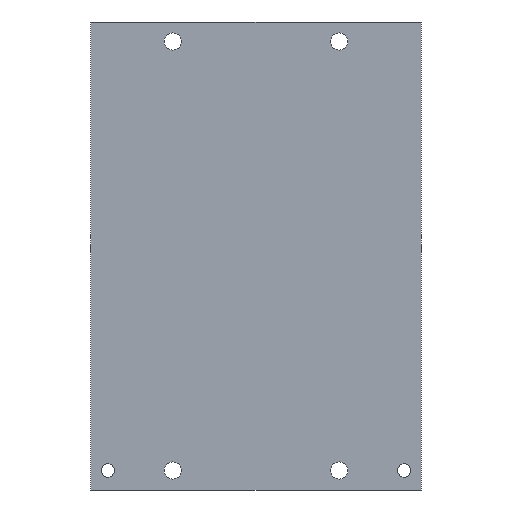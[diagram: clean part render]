
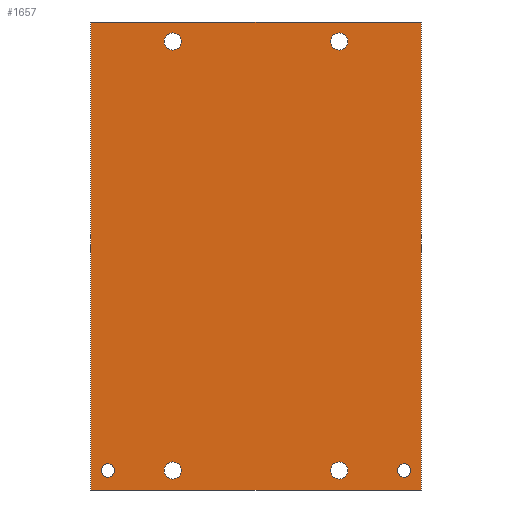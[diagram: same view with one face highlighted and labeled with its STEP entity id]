
A CAD part, front view. The second image highlights one B-rep face of the part: STEP entity #1657.
In plain terms, the highlighted planar face has unit normal (0, -1, 0).
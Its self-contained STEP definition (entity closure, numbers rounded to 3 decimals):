
#13=DIRECTION('',(0.,0.,1.));
#14=VECTOR('',#13,180.);
#15=CARTESIAN_POINT('',(63.65,0.,-90.));
#16=LINE('',#15,#14);
#17=DIRECTION('',(-1.,0.,0.));
#18=VECTOR('',#17,127.3);
#19=CARTESIAN_POINT('',(63.65,0.,90.));
#20=LINE('',#19,#18);
#21=DIRECTION('',(-1.,0.,0.));
#22=VECTOR('',#21,127.3);
#23=CARTESIAN_POINT('',(63.65,0.,-90.));
#24=LINE('',#23,#22);
#25=CARTESIAN_POINT('',(-32.,0.,-82.5));
#26=DIRECTION('',(0.,1.,0.));
#27=DIRECTION('',(1.,0.,0.));
#28=AXIS2_PLACEMENT_3D('',#25,#26,#27);
#30=CARTESIAN_POINT('',(-32.,0.,-82.5));
#31=DIRECTION('',(0.,1.,0.));
#32=DIRECTION('',(-1.,0.,0.));
#33=AXIS2_PLACEMENT_3D('',#30,#31,#32);
#35=CARTESIAN_POINT('',(32.,0.,-82.5));
#36=DIRECTION('',(0.,1.,0.));
#37=DIRECTION('',(1.,0.,0.));
#38=AXIS2_PLACEMENT_3D('',#35,#36,#37);
#40=CARTESIAN_POINT('',(32.,0.,-82.5));
#41=DIRECTION('',(0.,1.,0.));
#42=DIRECTION('',(-1.,0.,0.));
#43=AXIS2_PLACEMENT_3D('',#40,#41,#42);
#45=CARTESIAN_POINT('',(-32.,0.,82.5));
#46=DIRECTION('',(0.,1.,0.));
#47=DIRECTION('',(1.,0.,0.));
#48=AXIS2_PLACEMENT_3D('',#45,#46,#47);
#50=CARTESIAN_POINT('',(-32.,0.,82.5));
#51=DIRECTION('',(0.,1.,0.));
#52=DIRECTION('',(-1.,0.,0.));
#53=AXIS2_PLACEMENT_3D('',#50,#51,#52);
#55=CARTESIAN_POINT('',(32.,0.,82.5));
#56=DIRECTION('',(0.,1.,0.));
#57=DIRECTION('',(1.,0.,0.));
#58=AXIS2_PLACEMENT_3D('',#55,#56,#57);
#60=CARTESIAN_POINT('',(32.,0.,82.5));
#61=DIRECTION('',(0.,1.,0.));
#62=DIRECTION('',(-1.,0.,0.));
#63=AXIS2_PLACEMENT_3D('',#60,#61,#62);
#65=CARTESIAN_POINT('',(-57.,0.,-82.5));
#66=DIRECTION('',(0.,-1.,0.));
#67=DIRECTION('',(1.,0.,0.));
#68=AXIS2_PLACEMENT_3D('',#65,#66,#67);
#70=CARTESIAN_POINT('',(-57.,0.,-82.5));
#71=DIRECTION('',(0.,-1.,0.));
#72=DIRECTION('',(-1.,0.,0.));
#73=AXIS2_PLACEMENT_3D('',#70,#71,#72);
#75=CARTESIAN_POINT('',(57.,0.,-82.5));
#76=DIRECTION('',(0.,-1.,0.));
#77=DIRECTION('',(1.,0.,0.));
#78=AXIS2_PLACEMENT_3D('',#75,#76,#77);
#80=CARTESIAN_POINT('',(57.,0.,-82.5));
#81=DIRECTION('',(0.,-1.,0.));
#82=DIRECTION('',(-1.,0.,0.));
#83=AXIS2_PLACEMENT_3D('',#80,#81,#82);
#445=DIRECTION('',(0.,0.,1.));
#446=VECTOR('',#445,180.);
#447=CARTESIAN_POINT('',(-63.65,0.,-90.));
#448=LINE('',#447,#446);
#1193=CARTESIAN_POINT('',(63.65,0.,90.));
#1195=VERTEX_POINT('',#1193);
#1199=CARTESIAN_POINT('',(63.65,0.,-90.));
#1200=VERTEX_POINT('',#1199);
#1201=CARTESIAN_POINT('',(-63.65,0.,90.));
#1203=VERTEX_POINT('',#1201);
#1207=CARTESIAN_POINT('',(-63.65,0.,-90.));
#1208=VERTEX_POINT('',#1207);
#1229=CARTESIAN_POINT('',(-54.445,0.,-82.5));
#1230=CARTESIAN_POINT('',(-59.555,0.,-82.5));
#1231=VERTEX_POINT('',#1229);
#1232=VERTEX_POINT('',#1230);
#1237=CARTESIAN_POINT('',(59.555,0.,-82.5));
#1238=CARTESIAN_POINT('',(54.445,0.,-82.5));
#1239=VERTEX_POINT('',#1237);
#1240=VERTEX_POINT('',#1238);
#1253=CARTESIAN_POINT('',(-28.7,0.,-82.5));
#1254=CARTESIAN_POINT('',(-35.3,0.,-82.5));
#1255=VERTEX_POINT('',#1253);
#1256=VERTEX_POINT('',#1254);
#1269=CARTESIAN_POINT('',(35.3,0.,-82.5));
#1270=CARTESIAN_POINT('',(28.7,0.,-82.5));
#1271=VERTEX_POINT('',#1269);
#1272=VERTEX_POINT('',#1270);
#1285=CARTESIAN_POINT('',(-28.7,0.,82.5));
#1286=CARTESIAN_POINT('',(-35.3,0.,82.5));
#1287=VERTEX_POINT('',#1285);
#1288=VERTEX_POINT('',#1286);
#1301=CARTESIAN_POINT('',(35.3,0.,82.5));
#1302=CARTESIAN_POINT('',(28.7,0.,82.5));
#1303=VERTEX_POINT('',#1301);
#1304=VERTEX_POINT('',#1302);
#1608=CARTESIAN_POINT('',(63.65,0.,-90.));
#1609=DIRECTION('',(0.,-1.,0.));
#1610=DIRECTION('',(0.,0.,1.));
#1611=AXIS2_PLACEMENT_3D('',#1608,#1609,#1610);
#1612=PLANE('',#1611);
#1613=ORIENTED_EDGE('',*,*,#1588,.F.);
#1615=ORIENTED_EDGE('',*,*,#1614,.T.);
#1617=ORIENTED_EDGE('',*,*,#1616,.T.);
#1618=ORIENTED_EDGE('',*,*,#1599,.F.);
#1619=EDGE_LOOP('',(#1613,#1615,#1617,#1618));
#1620=FACE_OUTER_BOUND('',#1619,.F.);
#1622=ORIENTED_EDGE('',*,*,#1621,.F.);
#1624=ORIENTED_EDGE('',*,*,#1623,.F.);
#1625=EDGE_LOOP('',(#1622,#1624));
#1626=FACE_BOUND('',#1625,.F.);
#1628=ORIENTED_EDGE('',*,*,#1627,.F.);
#1630=ORIENTED_EDGE('',*,*,#1629,.F.);
#1631=EDGE_LOOP('',(#1628,#1630));
#1632=FACE_BOUND('',#1631,.F.);
#1634=ORIENTED_EDGE('',*,*,#1633,.F.);
#1636=ORIENTED_EDGE('',*,*,#1635,.F.);
#1637=EDGE_LOOP('',(#1634,#1636));
#1638=FACE_BOUND('',#1637,.F.);
#1640=ORIENTED_EDGE('',*,*,#1639,.F.);
#1642=ORIENTED_EDGE('',*,*,#1641,.F.);
#1643=EDGE_LOOP('',(#1640,#1642));
#1644=FACE_BOUND('',#1643,.F.);
#1646=ORIENTED_EDGE('',*,*,#1645,.T.);
#1648=ORIENTED_EDGE('',*,*,#1647,.T.);
#1649=EDGE_LOOP('',(#1646,#1648));
#1650=FACE_BOUND('',#1649,.F.);
#1652=ORIENTED_EDGE('',*,*,#1651,.T.);
#1654=ORIENTED_EDGE('',*,*,#1653,.T.);
#1655=EDGE_LOOP('',(#1652,#1654));
#1656=FACE_BOUND('',#1655,.F.);
#1657=ADVANCED_FACE('',(#1620,#1626,#1632,#1638,#1644,#1650,#1656),#1612,.T.);
#29=CIRCLE('',#28,3.3);
#34=CIRCLE('',#33,3.3);
#39=CIRCLE('',#38,3.3);
#44=CIRCLE('',#43,3.3);
#49=CIRCLE('',#48,3.3);
#54=CIRCLE('',#53,3.3);
#59=CIRCLE('',#58,3.3);
#64=CIRCLE('',#63,3.3);
#69=CIRCLE('',#68,2.555);
#74=CIRCLE('',#73,2.555);
#79=CIRCLE('',#78,2.555);
#84=CIRCLE('',#83,2.555);
#1588=EDGE_CURVE('',#1200,#1195,#16,.T.);
#1599=EDGE_CURVE('',#1195,#1203,#20,.T.);
#1614=EDGE_CURVE('',#1200,#1208,#24,.T.);
#1616=EDGE_CURVE('',#1208,#1203,#448,.T.);
#1621=EDGE_CURVE('',#1255,#1256,#29,.T.);
#1623=EDGE_CURVE('',#1256,#1255,#34,.T.);
#1627=EDGE_CURVE('',#1271,#1272,#39,.T.);
#1629=EDGE_CURVE('',#1272,#1271,#44,.T.);
#1633=EDGE_CURVE('',#1287,#1288,#49,.T.);
#1635=EDGE_CURVE('',#1288,#1287,#54,.T.);
#1639=EDGE_CURVE('',#1303,#1304,#59,.T.);
#1641=EDGE_CURVE('',#1304,#1303,#64,.T.);
#1645=EDGE_CURVE('',#1231,#1232,#69,.T.);
#1647=EDGE_CURVE('',#1232,#1231,#74,.T.);
#1651=EDGE_CURVE('',#1239,#1240,#79,.T.);
#1653=EDGE_CURVE('',#1240,#1239,#84,.T.);
